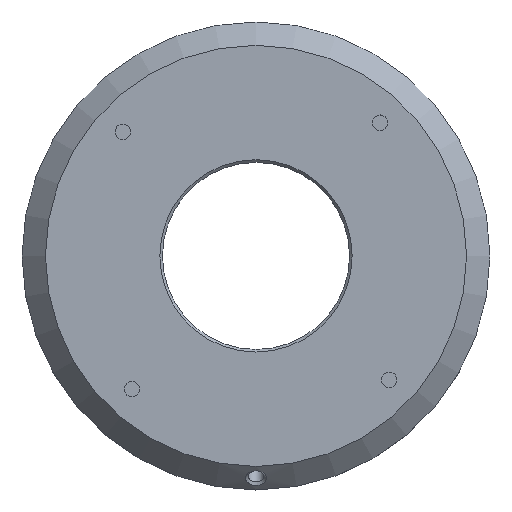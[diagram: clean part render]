
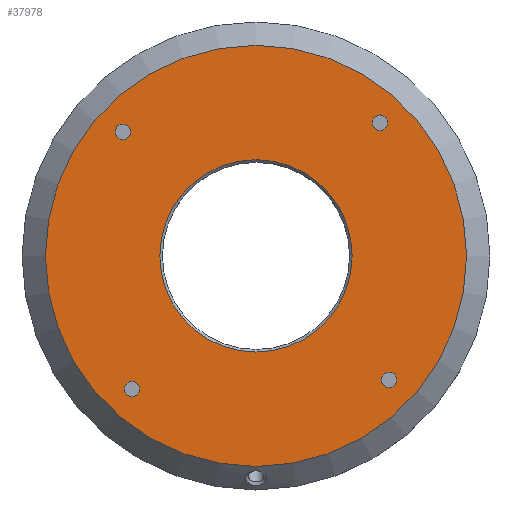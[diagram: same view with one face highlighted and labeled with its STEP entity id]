
A CAD part, top view. The second image highlights one B-rep face of the part: STEP entity #37978.
In plain terms, the highlighted planar face has unit normal (0, 0, 1).
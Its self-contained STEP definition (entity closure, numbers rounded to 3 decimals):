
#37767=CARTESIAN_POINT('',(25.609,-25.357,18.0));
#37768=VERTEX_POINT('',#37767);
#37769=CARTESIAN_POINT('',(25.609,-23.857,18.0));
#37770=DIRECTION('',(0.0,0.0,-1.0));
#37771=DIRECTION('',(0.0,1.0,0.0));
#37772=AXIS2_PLACEMENT_3D('',#37769,#37770,#37771);
#37773=CIRCLE('',#37772,1.5);
#37774=EDGE_CURVE('',#37768,#37768,#37773,.T.);
#37804=CARTESIAN_POINT('',(-25.357,-25.609,18.0));
#37805=VERTEX_POINT('',#37804);
#37806=CARTESIAN_POINT('',(-23.857,-25.609,18.0));
#37807=DIRECTION('',(0.0,0.0,-1.0));
#37808=DIRECTION('',(1.0,0.0,0.0));
#37809=AXIS2_PLACEMENT_3D('',#37806,#37807,#37808);
#37810=CIRCLE('',#37809,1.5);
#37811=EDGE_CURVE('',#37805,#37805,#37810,.T.);
#37841=CARTESIAN_POINT('',(-25.609,25.357,18.0));
#37842=VERTEX_POINT('',#37841);
#37843=CARTESIAN_POINT('',(-25.609,23.857,18.0));
#37844=DIRECTION('',(0.0,0.0,-1.0));
#37845=DIRECTION('',(0.0,-1.0,0.0));
#37846=AXIS2_PLACEMENT_3D('',#37843,#37844,#37845);
#37847=CIRCLE('',#37846,1.5);
#37848=EDGE_CURVE('',#37842,#37842,#37847,.T.);
#37878=CARTESIAN_POINT('',(25.357,25.609,18.0));
#37879=VERTEX_POINT('',#37878);
#37880=CARTESIAN_POINT('',(23.857,25.609,18.0));
#37881=DIRECTION('',(0.0,0.0,-1.0));
#37882=DIRECTION('',(-1.0,0.0,0.0));
#37883=AXIS2_PLACEMENT_3D('',#37880,#37881,#37882);
#37884=CIRCLE('',#37883,1.5);
#37885=EDGE_CURVE('',#37879,#37879,#37884,.T.);
#37915=CARTESIAN_POINT('',(18.5,0.,18.0));
#37916=VERTEX_POINT('',#37915);
#37917=CARTESIAN_POINT('',(0.0,0.0,18.0));
#37918=DIRECTION('',(0.0,0.0,1.0));
#37919=DIRECTION('',(-1.0,0.0,0.0));
#37920=AXIS2_PLACEMENT_3D('',#37917,#37918,#37919);
#37921=CIRCLE('',#37920,18.5);
#37922=EDGE_CURVE('',#37916,#37916,#37921,.T.);
#37947=CARTESIAN_POINT('',(0.0,0.0,18.0));
#37948=DIRECTION('',(0.0,0.0,-1.0));
#37949=DIRECTION('',(-1.0,0.0,0.0));
#37950=AXIS2_PLACEMENT_3D('',#37947,#37948,#37949);
#37951=PLANE('',#37950);
#37952=CARTESIAN_POINT('',(0.0,-40.5,18.0));
#37953=VERTEX_POINT('',#37952);
#37954=CARTESIAN_POINT('',(0.0,0.0,18.0));
#37955=DIRECTION('',(0.0,0.0,1.0));
#37956=DIRECTION('',(0.0,-1.0,0.0));
#37957=AXIS2_PLACEMENT_3D('',#37954,#37955,#37956);
#37958=CIRCLE('',#37957,40.5);
#37959=EDGE_CURVE('',#37953,#37953,#37958,.T.);
#37960=ORIENTED_EDGE('',*,*,#37959,.T.);
#37961=EDGE_LOOP('',(#37960));
#37962=FACE_OUTER_BOUND('',#37961,.T.);
#37963=ORIENTED_EDGE('',*,*,#37774,.T.);
#37964=EDGE_LOOP('',(#37963));
#37965=FACE_BOUND('',#37964,.T.);
#37966=ORIENTED_EDGE('',*,*,#37811,.T.);
#37967=EDGE_LOOP('',(#37966));
#37968=FACE_BOUND('',#37967,.T.);
#37969=ORIENTED_EDGE('',*,*,#37848,.T.);
#37970=EDGE_LOOP('',(#37969));
#37971=FACE_BOUND('',#37970,.T.);
#37972=ORIENTED_EDGE('',*,*,#37885,.T.);
#37973=EDGE_LOOP('',(#37972));
#37974=FACE_BOUND('',#37973,.T.);
#37975=ORIENTED_EDGE('',*,*,#37922,.F.);
#37976=EDGE_LOOP('',(#37975));
#37977=FACE_BOUND('',#37976,.T.);
#37978=ADVANCED_FACE('',(#37962,#37965,#37968,#37971,#37974,#37977),#37951,.F.);
